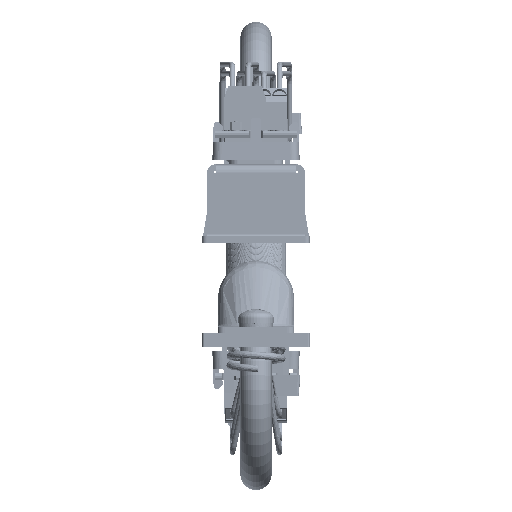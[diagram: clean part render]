
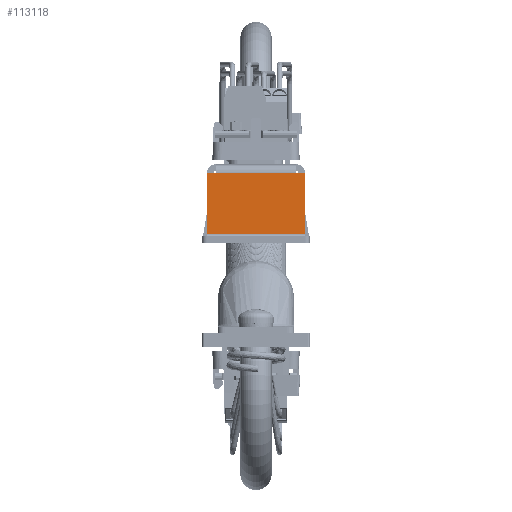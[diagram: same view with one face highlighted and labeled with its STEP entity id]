
A CAD part, left-side view. The second image highlights one B-rep face of the part: STEP entity #113118.
In plain terms, the highlighted planar face has unit normal (-1, 0, 0).
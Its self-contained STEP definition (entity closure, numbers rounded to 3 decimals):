
#111713=CARTESIAN_POINT('',(-121.109,-11.0,38.7));
#111714=VERTEX_POINT('',#111713);
#111721=CARTESIAN_POINT('',(-121.109,-11.0,25.2));
#111722=VERTEX_POINT('',#111721);
#111723=CARTESIAN_POINT('',(-121.109,-11.0,38.7));
#111724=DIRECTION('',(0.0,0.0,-1.0));
#111725=VECTOR('',#111724,13.5);
#111726=LINE('',#111723,#111725);
#111727=EDGE_CURVE('',#111714,#111722,#111726,.T.);
#112428=CARTESIAN_POINT('',(-121.109,11.0,38.7));
#112429=VERTEX_POINT('',#112428);
#112438=CARTESIAN_POINT('',(-121.109,9.,38.7));
#112439=VERTEX_POINT('',#112438);
#112440=CARTESIAN_POINT('',(-121.109,9.,38.7));
#112441=DIRECTION('',(0.0,1.0,0.0));
#112442=VECTOR('',#112441,2.);
#112443=LINE('',#112440,#112442);
#112444=EDGE_CURVE('',#112439,#112429,#112443,.T.);
#112670=CARTESIAN_POINT('',(-121.109,-9.,38.7));
#112671=VERTEX_POINT('',#112670);
#112678=CARTESIAN_POINT('',(-121.109,-11.0,38.7));
#112679=DIRECTION('',(0.0,1.0,0.0));
#112680=VECTOR('',#112679,2.);
#112681=LINE('',#112678,#112680);
#112682=EDGE_CURVE('',#111714,#112671,#112681,.T.);
#112773=CARTESIAN_POINT('',(-121.109,-9.,38.7));
#112774=DIRECTION('',(0.0,1.0,0.0));
#112775=VECTOR('',#112774,18.);
#112776=LINE('',#112773,#112775);
#112777=EDGE_CURVE('',#112671,#112439,#112776,.T.);
#112893=CARTESIAN_POINT('',(-121.109,11.0,25.2));
#112894=VERTEX_POINT('',#112893);
#112902=CARTESIAN_POINT('',(-121.109,11.0,25.2));
#112903=DIRECTION('',(0.0,0.0,1.0));
#112904=VECTOR('',#112903,13.5);
#112905=LINE('',#112902,#112904);
#112906=EDGE_CURVE('',#112894,#112429,#112905,.T.);
#112992=CARTESIAN_POINT('',(-121.109,11.0,25.2));
#112993=DIRECTION('',(0.0,-1.0,0.0));
#112994=VECTOR('',#112993,22.0);
#112995=LINE('',#112992,#112994);
#112996=EDGE_CURVE('',#112894,#111722,#112995,.T.);
#113105=CARTESIAN_POINT('',(-121.109,0.,31.861));
#113106=DIRECTION('',(1.0,0.0,0.0));
#113107=DIRECTION('',(0.0,0.0,-1.0));
#113108=AXIS2_PLACEMENT_3D('',#113105,#113106,#113107);
#113109=PLANE('',#113108);
#113110=ORIENTED_EDGE('',*,*,#112996,.T.);
#113111=ORIENTED_EDGE('',*,*,#111727,.F.);
#113112=ORIENTED_EDGE('',*,*,#112682,.T.);
#113113=ORIENTED_EDGE('',*,*,#112777,.T.);
#113114=ORIENTED_EDGE('',*,*,#112444,.T.);
#113115=ORIENTED_EDGE('',*,*,#112906,.F.);
#113116=EDGE_LOOP('',(#113110,#113111,#113112,#113113,#113114,#113115));
#113117=FACE_OUTER_BOUND('',#113116,.T.);
#113118=ADVANCED_FACE('',(#113117),#113109,.F.);
